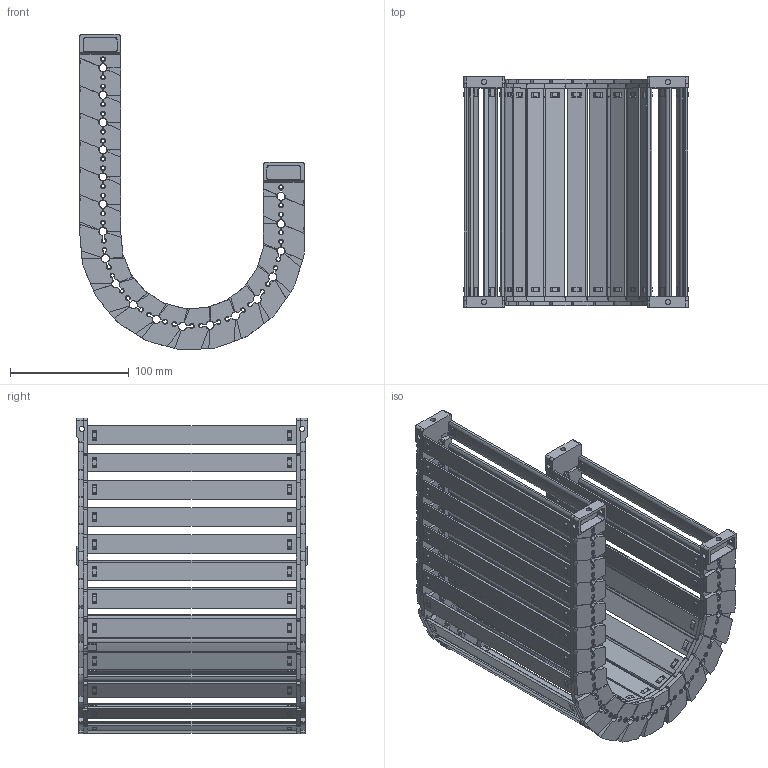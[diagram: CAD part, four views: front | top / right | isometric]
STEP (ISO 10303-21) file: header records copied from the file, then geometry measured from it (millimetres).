
FILE_DESCRIPTION((''),'2;1');
FILE_NAME('JY-28X175-R75_ASM','2026-05-04T14:08:19',('admin'),(''),'CREO PARAMETRIC BY PTC INC, 2021023','CREO PARAMETRIC BY PTC INC, 2021023','');
FILE_SCHEMA(('CONFIG_CONTROL_DESIGN'));
Length unit declared in the file: millimetre
Products named in the file (11): 28XL-L; 25-35XL-YP; 28XL-R; ASM0001_ASM; 28-LTT-A-L; 28-LTT-A-R; 28XL-LTT-A_ASM; 28-LTT-B-L; 28-LTT-B-R; 28XL-LTT-B_ASM; JY-28X175-R75_ASM
Assembly tree (32 placements, depth 3):
  JY-28X175-R75_ASM
    ASM0001_ASM  x18
      28XL-L
      25-35XL-YP
      28XL-R
    28XL-LTT-A_ASM
      28-LTT-A-L
      25-35XL-YP  x2
      28-LTT-A-R
    28XL-LTT-B_ASM
      28-LTT-B-L
      25-35XL-YP  x2
      28-LTT-B-R
Bounding box: 189.55 x 194.5 x 266.34 mm (x, y, z)
Volume: 565398.2 mm3; surface area: 404061.2 mm2
Topology: 80 solids, 80 shells, 6470 faces, 19228 edges, 12838 vertices
Faces by surface type: plane 4242, cone 1156, cylinder 934, bspline 138
Entity records: 29095 total; most frequent: CARTESIAN_POINT 9490, ORIENTED_EDGE 4352, DIRECTION 3655, EDGE_CURVE 2176, VERTEX_POINT 1454, VECTOR 1365, LINE 1365, AXIS2_PLACEMENT_3D 1145
